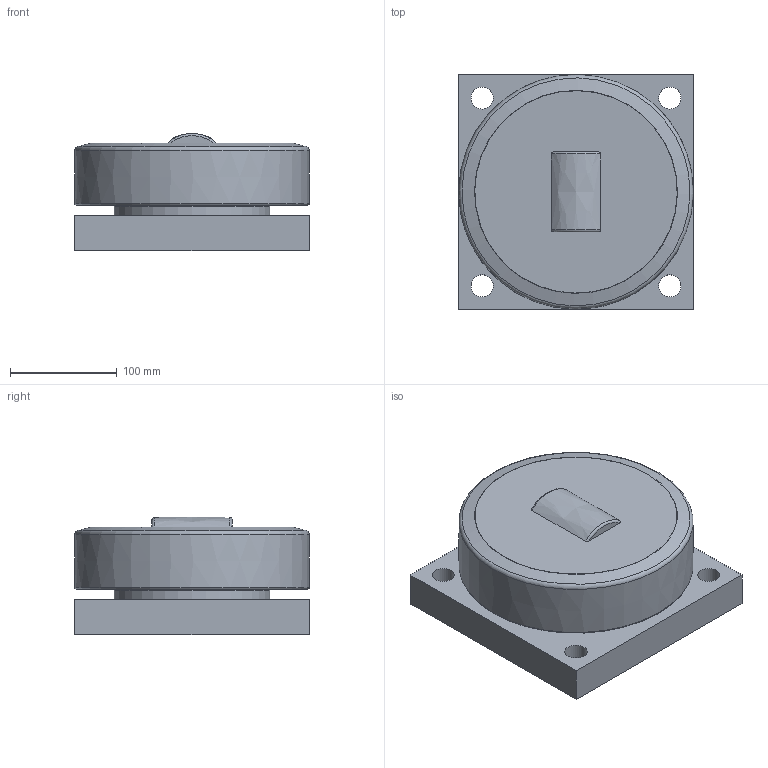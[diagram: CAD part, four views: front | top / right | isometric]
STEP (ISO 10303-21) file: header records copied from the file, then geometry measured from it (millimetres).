
FILE_DESCRIPTION((''),'2;1');
FILE_NAME('K:\Daten\KOMPONENTEN 2D + 3D\KOMPONENTEN Step-Files für extern\_ALFATEC_Mammutrollen und Profile\MR .0610 mit Platte\ALFATEC_MR 220.0610_BQ1000.stp','2013-10-01T13:31:15',('hipp'),(''),'Autodesk Inventor 2013','Autodesk Inventor 2013','');
FILE_SCHEMA(('CONFIG_CONTROL_DESIGN'));
Length unit declared in the file: millimetre
Products named in the file (1): MR 220.0610_BQ1000_Shrinkwrap_1
Bounding box: 220 x 220 x 110.5 mm (x, y, z)
Volume: 3785972.3 mm3; surface area: 225660.9 mm2
Topology: 1 solids, 1 shells, 30 faces, 67 edges, 44 vertices
Faces by surface type: plane 12, cylinder 6, torus 5, cone 5, bspline 2
Full cylindrical faces by diameter (mm): 20.752 x4, 110 x1, 146 x1
Entity records: 871 total; most frequent: CARTESIAN_POINT 197, DIRECTION 126, ORIENTED_EDGE 94, EDGE_LOOP 58, AXIS2_PLACEMENT_3D 56, EDGE_CURVE 47, VERTEX_POINT 39, FACE_OUTER_BOUND 30
